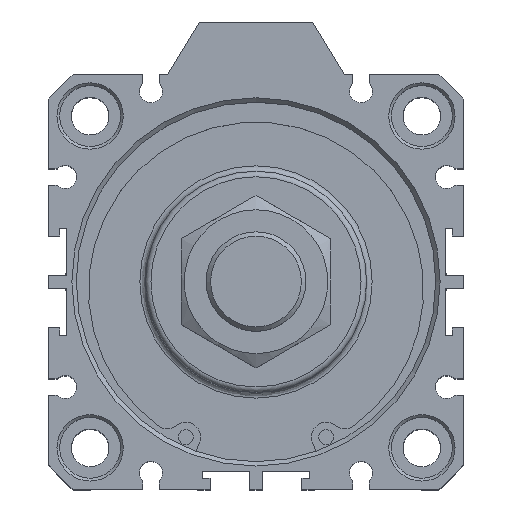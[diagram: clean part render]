
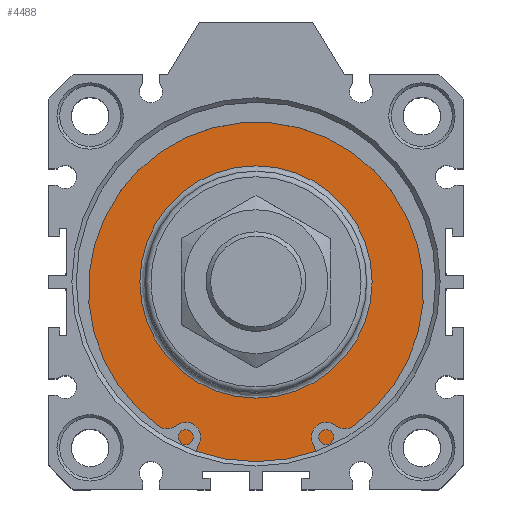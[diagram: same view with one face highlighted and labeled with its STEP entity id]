
A CAD part, top view. The second image highlights one B-rep face of the part: STEP entity #4488.
In plain terms, the highlighted planar face has unit normal (0, 0, 1).
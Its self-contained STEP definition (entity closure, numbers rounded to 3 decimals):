
#4437=CARTESIAN_POINT('',(2.99,22.555,67.3));
#4438=VERTEX_POINT('',#4437);
#4439=CARTESIAN_POINT('',(2.99,1.555,67.3));
#4440=DIRECTION('',(0.0,0.0,1.0));
#4441=DIRECTION('',(0.0,-1.0,0.0));
#4442=AXIS2_PLACEMENT_3D('',#4439,#4440,#4441);
#4443=CIRCLE('',#4442,21.);
#4444=EDGE_CURVE('',#4438,#4438,#4443,.T.);
#4469=CARTESIAN_POINT('',(2.99,27.805,67.3));
#4470=DIRECTION('',(0.0,0.0,1.0));
#4471=DIRECTION('',(1.0,0.0,0.0));
#4472=AXIS2_PLACEMENT_3D('',#4469,#4470,#4471);
#4473=PLANE('',#4472);
#4474=CARTESIAN_POINT('',(2.99,34.055,67.3));
#4475=VERTEX_POINT('',#4474);
#4476=CARTESIAN_POINT('',(2.99,1.555,67.3));
#4477=DIRECTION('',(0.0,0.0,-1.0));
#4478=DIRECTION('',(0.0,1.0,0.0));
#4479=AXIS2_PLACEMENT_3D('',#4476,#4477,#4478);
#4480=CIRCLE('',#4479,32.5);
#4481=EDGE_CURVE('',#4475,#4475,#4480,.T.);
#4482=ORIENTED_EDGE('',*,*,#4481,.F.);
#4483=EDGE_LOOP('',(#4482));
#4484=FACE_OUTER_BOUND('',#4483,.T.);
#4485=ORIENTED_EDGE('',*,*,#4444,.F.);
#4486=EDGE_LOOP('',(#4485));
#4487=FACE_BOUND('',#4486,.T.);
#4488=ADVANCED_FACE('',(#4484,#4487),#4473,.T.);
